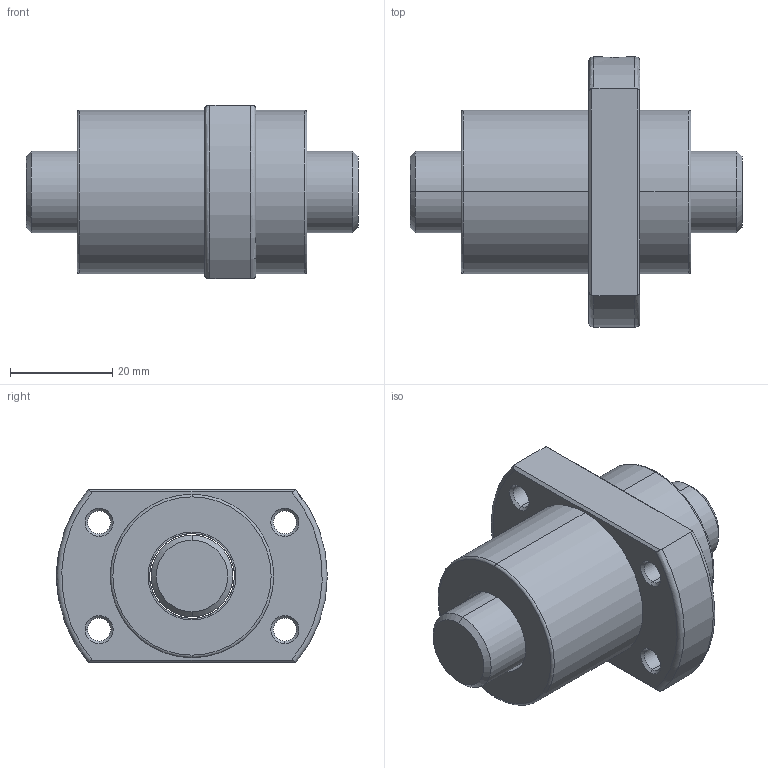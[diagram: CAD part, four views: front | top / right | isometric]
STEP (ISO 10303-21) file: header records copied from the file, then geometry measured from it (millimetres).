
FILE_DESCRIPTION (( 'STEP AP203' ), '1' );
FILE_NAME ('SFTER01616A2D-C.STEP', '2020-06-18T01:55:12', ( '' ), ( '' ), 'SwSTEP 2.0', 'SolidWorks 2013', '' );
FILE_SCHEMA (( 'CONFIG_CONTROL_DESIGN' ));
Length unit declared in the file: millimetre
Products named in the file (1): SFTER01616A2D-C
Bounding box: 65 x 53 x 34 mm (x, y, z)
Volume: 46362.6 mm3; surface area: 14548.3 mm2
Topology: 2 solids, 2 shells, 78 faces, 176 edges, 110 vertices
Faces by surface type: cylinder 32, cone 20, plane 18, torus 8
Entity records: 2867 total; most frequent: CARTESIAN_POINT 987, DIRECTION 400, ORIENTED_EDGE 352, EDGE_CURVE 176, AXIS2_PLACEMENT_3D 169, VERTEX_POINT 110, EDGE_LOOP 98, CIRCLE 90
